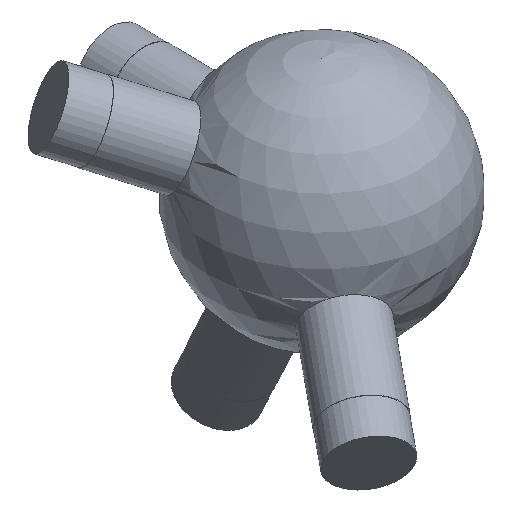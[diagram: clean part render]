
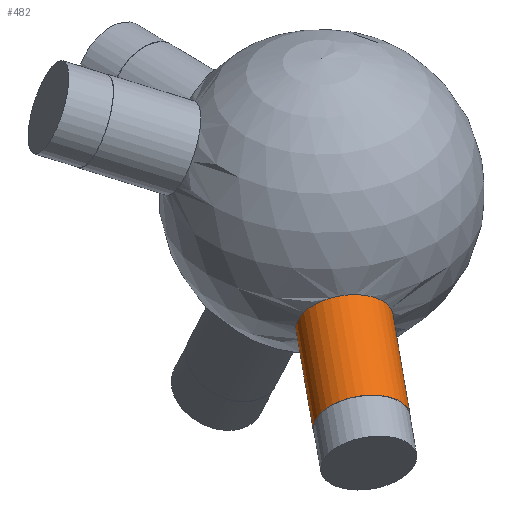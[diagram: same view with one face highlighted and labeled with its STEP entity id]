
A CAD part, isometric view. The second image highlights one B-rep face of the part: STEP entity #482.
In plain terms, the highlighted cylindrical face has radius 6 mm (diameter 12 mm), a full revolution.
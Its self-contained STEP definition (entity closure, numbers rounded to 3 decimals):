
#35 = SPHERICAL_SURFACE('',#36,20.);
#36 = AXIS2_PLACEMENT_3D('',#37,#38,#39);
#37 = CARTESIAN_POINT('',(0.,0.,0.));
#38 = DIRECTION('',(0.,0.,1.));
#39 = DIRECTION('',(1.,0.,-0.));
#172 = EDGE_CURVE('',#173,#173,#175,.T.);
#173 = VERTEX_POINT('',#174);
#174 = CARTESIAN_POINT('',(-15.285,-10.787,
    -7.072));
#175 = SURFACE_CURVE('',#176,(#181,#243),.PCURVE_S1.);
#176 = CIRCLE('',#177,6.);
#177 = AXIS2_PLACEMENT_3D('',#178,#179,#180);
#178 = CARTESIAN_POINT('',(-10.436,-14.321,
    -7.072));
#179 = DIRECTION('',(-0.547,-0.751,-0.371));
#180 = DIRECTION('',(0.808,-0.589,0.)
  );
#181 = PCURVE('',#35,#182);
#182 = DEFINITIONAL_REPRESENTATION('',(#183),#242);
#183 = B_SPLINE_CURVE_WITH_KNOTS('',8,(#184,#185,#186,#187,#188,#189,
    #190,#191,#192,#193,#194,#195,#196,#197,#198,#199,#200,#201,#202,
    #203,#204,#205,#206,#207,#208,#209,#210,#211,#212,#213,#214,#215,
    #216,#217,#218,#219,#220,#221,#222,#223,#224,#225,#226,#227,#228,
    #229,#230,#231,#232,#233,#234,#235,#236,#237,#238,#239,#240,#241),
  .UNSPECIFIED.,.F.,.F.,(9,7,7,7,7,7,7,7,9),(3.142,
    3.927,4.614,5.216,5.742,
    6.662,7.353,8.389,9.425),
  .UNSPECIFIED.);
#184 = CARTESIAN_POINT('',(3.756,-0.361));
#185 = CARTESIAN_POINT('',(3.752,-0.391));
#186 = CARTESIAN_POINT('',(3.752,-0.42));
#187 = CARTESIAN_POINT('',(3.755,-0.45));
#188 = CARTESIAN_POINT('',(3.761,-0.479));
#189 = CARTESIAN_POINT('',(3.772,-0.507));
#190 = CARTESIAN_POINT('',(3.786,-0.535));
#191 = CARTESIAN_POINT('',(3.804,-0.56));
#192 = CARTESIAN_POINT('',(3.845,-0.603));
#193 = CARTESIAN_POINT('',(3.867,-0.622));
#194 = CARTESIAN_POINT('',(3.891,-0.639));
#195 = CARTESIAN_POINT('',(3.919,-0.653));
#196 = CARTESIAN_POINT('',(3.948,-0.665));
#197 = CARTESIAN_POINT('',(3.979,-0.674));
#198 = CARTESIAN_POINT('',(4.012,-0.68));
#199 = CARTESIAN_POINT('',(4.074,-0.685));
#200 = CARTESIAN_POINT('',(4.103,-0.686));
#201 = CARTESIAN_POINT('',(4.132,-0.684));
#202 = CARTESIAN_POINT('',(4.161,-0.679));
#203 = CARTESIAN_POINT('',(4.189,-0.673));
#204 = CARTESIAN_POINT('',(4.216,-0.664));
#205 = CARTESIAN_POINT('',(4.241,-0.653));
#206 = CARTESIAN_POINT('',(4.284,-0.63));
#207 = CARTESIAN_POINT('',(4.304,-0.617));
#208 = CARTESIAN_POINT('',(4.321,-0.603));
#209 = CARTESIAN_POINT('',(4.337,-0.589));
#210 = CARTESIAN_POINT('',(4.351,-0.573));
#211 = CARTESIAN_POINT('',(4.364,-0.556));
#212 = CARTESIAN_POINT('',(4.374,-0.538));
#213 = CARTESIAN_POINT('',(4.399,-0.489));
#214 = CARTESIAN_POINT('',(4.41,-0.455));
#215 = CARTESIAN_POINT('',(4.415,-0.421));
#216 = CARTESIAN_POINT('',(4.416,-0.385));
#217 = CARTESIAN_POINT('',(4.412,-0.351));
#218 = CARTESIAN_POINT('',(4.403,-0.317));
#219 = CARTESIAN_POINT('',(4.391,-0.284));
#220 = CARTESIAN_POINT('',(4.362,-0.23));
#221 = CARTESIAN_POINT('',(4.348,-0.208));
#222 = CARTESIAN_POINT('',(4.332,-0.187));
#223 = CARTESIAN_POINT('',(4.314,-0.168));
#224 = CARTESIAN_POINT('',(4.295,-0.15));
#225 = CARTESIAN_POINT('',(4.274,-0.135));
#226 = CARTESIAN_POINT('',(4.251,-0.121));
#227 = CARTESIAN_POINT('',(4.193,-0.092));
#228 = CARTESIAN_POINT('',(4.156,-0.079));
#229 = CARTESIAN_POINT('',(4.117,-0.072));
#230 = CARTESIAN_POINT('',(4.077,-0.07));
#231 = CARTESIAN_POINT('',(4.038,-0.073));
#232 = CARTESIAN_POINT('',(3.999,-0.082));
#233 = CARTESIAN_POINT('',(3.962,-0.096));
#234 = CARTESIAN_POINT('',(3.894,-0.133));
#235 = CARTESIAN_POINT('',(3.862,-0.156));
#236 = CARTESIAN_POINT('',(3.833,-0.183));
#237 = CARTESIAN_POINT('',(3.808,-0.214));
#238 = CARTESIAN_POINT('',(3.788,-0.248));
#239 = CARTESIAN_POINT('',(3.772,-0.285));
#240 = CARTESIAN_POINT('',(3.761,-0.323));
#241 = CARTESIAN_POINT('',(3.756,-0.361));
#242 = ( GEOMETRIC_REPRESENTATION_CONTEXT(2) 
PARAMETRIC_REPRESENTATION_CONTEXT() REPRESENTATION_CONTEXT('2D SPACE',''
  ) );
#243 = PCURVE('',#244,#249);
#244 = CYLINDRICAL_SURFACE('',#245,6.);
#245 = AXIS2_PLACEMENT_3D('',#246,#247,#248);
#246 = CARTESIAN_POINT('',(0.,0.,0.));
#247 = DIRECTION('',(-0.547,-0.751,-0.371));
#248 = DIRECTION('',(-0.808,0.589,0.)
  );
#249 = DEFINITIONAL_REPRESENTATION('',(#250),#254);
#250 = LINE('',#251,#252);
#251 = CARTESIAN_POINT('',(-3.142,19.079));
#252 = VECTOR('',#253,1.);
#253 = DIRECTION('',(1.,0.));
#254 = ( GEOMETRIC_REPRESENTATION_CONTEXT(2) 
PARAMETRIC_REPRESENTATION_CONTEXT() REPRESENTATION_CONTEXT('2D SPACE',''
  ) );
#482 = ADVANCED_FACE('',(#483),#244,.T.);
#483 = FACE_BOUND('',#484,.T.);
#484 = EDGE_LOOP('',(#485,#508,#535,#536));
#485 = ORIENTED_EDGE('',*,*,#486,.T.);
#486 = EDGE_CURVE('',#173,#487,#489,.T.);
#487 = VERTEX_POINT('',#488);
#488 = CARTESIAN_POINT('',(-23.354,-21.86,
    -12.54));
#489 = SEAM_CURVE('',#490,(#494,#501),.PCURVE_S1.);
#490 = LINE('',#491,#492);
#491 = CARTESIAN_POINT('',(-4.849,3.534,
    0.));
#492 = VECTOR('',#493,1.);
#493 = DIRECTION('',(-0.547,-0.751,-0.371));
#494 = PCURVE('',#244,#495);
#495 = DEFINITIONAL_REPRESENTATION('',(#496),#500);
#496 = LINE('',#497,#498);
#497 = CARTESIAN_POINT('',(6.283,-0.));
#498 = VECTOR('',#499,1.);
#499 = DIRECTION('',(0.,1.));
#500 = ( GEOMETRIC_REPRESENTATION_CONTEXT(2) 
PARAMETRIC_REPRESENTATION_CONTEXT() REPRESENTATION_CONTEXT('2D SPACE',''
  ) );
#501 = PCURVE('',#244,#502);
#502 = DEFINITIONAL_REPRESENTATION('',(#503),#507);
#503 = LINE('',#504,#505);
#504 = CARTESIAN_POINT('',(0.,-0.));
#505 = VECTOR('',#506,1.);
#506 = DIRECTION('',(0.,1.));
#507 = ( GEOMETRIC_REPRESENTATION_CONTEXT(2) 
PARAMETRIC_REPRESENTATION_CONTEXT() REPRESENTATION_CONTEXT('2D SPACE',''
  ) );
#508 = ORIENTED_EDGE('',*,*,#509,.F.);
#509 = EDGE_CURVE('',#487,#487,#510,.T.);
#510 = SURFACE_CURVE('',#511,(#516,#523),.PCURVE_S1.);
#511 = CIRCLE('',#512,6.);
#512 = AXIS2_PLACEMENT_3D('',#513,#514,#515);
#513 = CARTESIAN_POINT('',(-18.504,-25.393,
    -12.54));
#514 = DIRECTION('',(-0.547,-0.751,-0.371));
#515 = DIRECTION('',(-0.808,0.589,0.)
  );
#516 = PCURVE('',#244,#517);
#517 = DEFINITIONAL_REPRESENTATION('',(#518),#522);
#518 = LINE('',#519,#520);
#519 = CARTESIAN_POINT('',(0.,33.83));
#520 = VECTOR('',#521,1.);
#521 = DIRECTION('',(1.,0.));
#522 = ( GEOMETRIC_REPRESENTATION_CONTEXT(2) 
PARAMETRIC_REPRESENTATION_CONTEXT() REPRESENTATION_CONTEXT('2D SPACE',''
  ) );
#523 = PCURVE('',#524,#529);
#524 = PLANE('',#525);
#525 = AXIS2_PLACEMENT_3D('',#526,#527,#528);
#526 = CARTESIAN_POINT('',(-18.504,-25.393,
    -12.54));
#527 = DIRECTION('',(-0.547,-0.751,-0.371));
#528 = DIRECTION('',(-0.808,0.589,0.)
  );
#529 = DEFINITIONAL_REPRESENTATION('',(#530),#534);
#530 = CIRCLE('',#531,6.);
#531 = AXIS2_PLACEMENT_2D('',#532,#533);
#532 = CARTESIAN_POINT('',(0.,0.));
#533 = DIRECTION('',(1.,0.));
#534 = ( GEOMETRIC_REPRESENTATION_CONTEXT(2) 
PARAMETRIC_REPRESENTATION_CONTEXT() REPRESENTATION_CONTEXT('2D SPACE',''
  ) );
#535 = ORIENTED_EDGE('',*,*,#486,.F.);
#536 = ORIENTED_EDGE('',*,*,#172,.T.);
